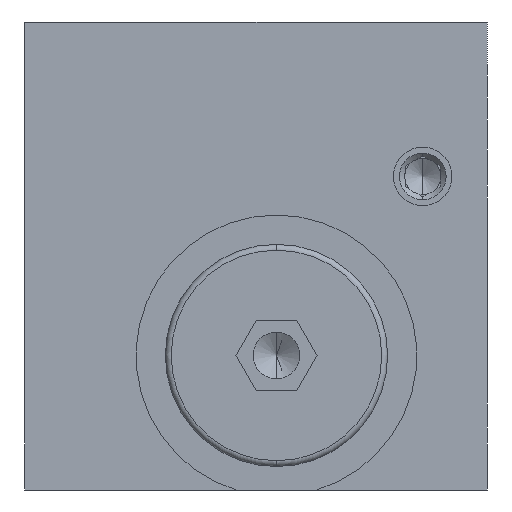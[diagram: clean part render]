
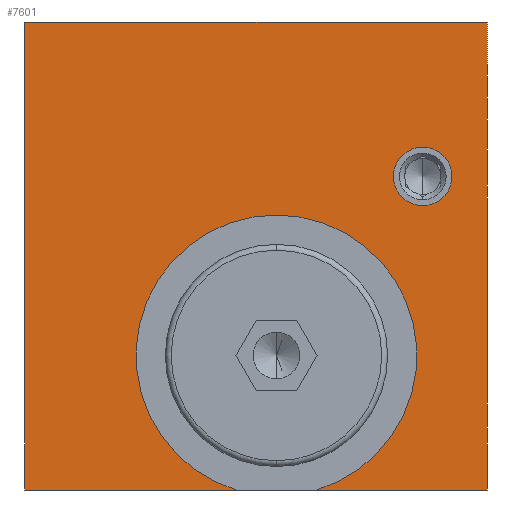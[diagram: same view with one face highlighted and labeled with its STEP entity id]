
A CAD part, left-side view. The second image highlights one B-rep face of the part: STEP entity #7601.
In plain terms, the highlighted planar face has unit normal (-1, 0, 0).
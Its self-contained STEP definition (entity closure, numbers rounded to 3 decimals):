
#148 = LINE ( 'NONE', #2505, #3094 ) ;
#208 = ORIENTED_EDGE ( 'NONE', *, *, #13230, .F. ) ;
#226 = CARTESIAN_POINT ( 'NONE',  ( 0., 1.678, -20. ) ) ;
#396 = ORIENTED_EDGE ( 'NONE', *, *, #10159, .F. ) ;
#542 = DIRECTION ( 'NONE',  ( -1., 0., 0. ) ) ;
#849 = VERTEX_POINT ( 'NONE', #1285 ) ;
#1187 = CARTESIAN_POINT ( 'NONE',  ( 0., 19.75, -20. ) ) ;
#1285 = CARTESIAN_POINT ( 'NONE',  ( 0., -5.178, -20. ) ) ;
#1432 = CARTESIAN_POINT ( 'NONE',  ( 0., -19.75, 20. ) ) ;
#2141 = LINE ( 'NONE', #5838, #13488 ) ;
#2248 = AXIS2_PLACEMENT_3D ( 'NONE', #13101, #6525, #14189 ) ;
#2297 = DIRECTION ( 'NONE',  ( 0., 0., 1. ) ) ;
#2305 = ORIENTED_EDGE ( 'NONE', *, *, #7713, .F. ) ;
#2395 = DIRECTION ( 'NONE',  ( -1., 0., 0. ) ) ;
#2415 = EDGE_LOOP ( 'NONE', ( #9736, #8286 ) ) ;
#2490 = EDGE_CURVE ( 'NONE', #9012, #9950, #2863, .T. ) ;
#2505 = CARTESIAN_POINT ( 'NONE',  ( 0., -19.75, -20. ) ) ;
#2556 = DIRECTION ( 'NONE',  ( 0., -1., 0. ) ) ;
#2731 = CARTESIAN_POINT ( 'NONE',  ( 0., -14.25, 9.3 ) ) ;
#2863 = LINE ( 'NONE', #5517, #5805 ) ;
#2934 = AXIS2_PLACEMENT_3D ( 'NONE', #8981, #2395, #10093 ) ;
#3094 = VECTOR ( 'NONE', #11314, 1000. ) ;
#3143 = EDGE_CURVE ( 'NONE', #4811, #849, #4345, .T. ) ;
#3195 = DIRECTION ( 'NONE',  ( 0., 0., 1. ) ) ;
#3655 = VECTOR ( 'NONE', #6871, 1000. ) ;
#3879 = VERTEX_POINT ( 'NONE', #2731 ) ;
#4345 = LINE ( 'NONE', #9686, #7271 ) ;
#4591 = ORIENTED_EDGE ( 'NONE', *, *, #14235, .F. ) ;
#4811 = VERTEX_POINT ( 'NONE', #9551 ) ;
#4998 = DIRECTION ( 'NONE',  ( -1., 0., 0. ) ) ;
#5486 = EDGE_CURVE ( 'NONE', #13301, #3879, #13540, .T. ) ;
#5517 = CARTESIAN_POINT ( 'NONE',  ( 0., 19.75, 20. ) ) ;
#5561 = VERTEX_POINT ( 'NONE', #1432 ) ;
#5805 = VECTOR ( 'NONE', #3195, 1000. ) ;
#5838 = CARTESIAN_POINT ( 'NONE',  ( 0., -19.75, 20. ) ) ;
#6289 = EDGE_CURVE ( 'NONE', #849, #7706, #13290, .T. ) ;
#6426 = FACE_BOUND ( 'NONE', #2415, .T. ) ;
#6499 = VERTEX_POINT ( 'NONE', #226 ) ;
#6525 = DIRECTION ( 'NONE',  ( -1., 0., 0. ) ) ;
#6587 = LINE ( 'NONE', #11244, #3655 ) ;
#6871 = DIRECTION ( 'NONE',  ( 0., 0., -1. ) ) ;
#7127 = CARTESIAN_POINT ( 'NONE',  ( 0., -14.25, 6.8 ) ) ;
#7271 = VECTOR ( 'NONE', #9636, 1000. ) ;
#7514 = AXIS2_PLACEMENT_3D ( 'NONE', #7127, #542, #8260 ) ;
#7601 = ADVANCED_FACE ( 'NONE', ( #6426, #9358 ), #11062, .T. ) ;
#7706 = VERTEX_POINT ( 'NONE', #13401 ) ;
#7713 = EDGE_CURVE ( 'NONE', #5561, #4811, #6587, .T. ) ;
#7941 = EDGE_CURVE ( 'NONE', #3879, #13301, #12770, .T. ) ;
#8155 = CARTESIAN_POINT ( 'NONE',  ( 0., -14.25, 4.3 ) ) ;
#8251 = ORIENTED_EDGE ( 'NONE', *, *, #2490, .F. ) ;
#8260 = DIRECTION ( 'NONE',  ( 0., 0., 1. ) ) ;
#8286 = ORIENTED_EDGE ( 'NONE', *, *, #5486, .F. ) ;
#8887 = DIRECTION ( 'NONE',  ( -1., 0., 0. ) ) ;
#8981 = CARTESIAN_POINT ( 'NONE',  ( 0., -14.25, 6.8 ) ) ;
#9012 = VERTEX_POINT ( 'NONE', #11464 ) ;
#9358 = FACE_OUTER_BOUND ( 'NONE', #14176, .T. ) ;
#9551 = CARTESIAN_POINT ( 'NONE',  ( 0., -19.75, -20. ) ) ;
#9636 = DIRECTION ( 'NONE',  ( 0., 1., 0. ) ) ;
#9686 = CARTESIAN_POINT ( 'NONE',  ( 0., -19.75, -20. ) ) ;
#9736 = ORIENTED_EDGE ( 'NONE', *, *, #7941, .F. ) ;
#9950 = VERTEX_POINT ( 'NONE', #12159 ) ;
#10093 = DIRECTION ( 'NONE',  ( 0., 0., 1. ) ) ;
#10159 = EDGE_CURVE ( 'NONE', #7706, #6499, #13224, .T. ) ;
#11062 = PLANE ( 'NONE',  #11765 ) ;
#11244 = CARTESIAN_POINT ( 'NONE',  ( 0., -19.75, 20. ) ) ;
#11314 = DIRECTION ( 'NONE',  ( 0., 1., 0. ) ) ;
#11464 = CARTESIAN_POINT ( 'NONE',  ( 0., 19.75, -20. ) ) ;
#11573 = CARTESIAN_POINT ( 'NONE',  ( 0., -1.75, -8.5 ) ) ;
#11765 = AXIS2_PLACEMENT_3D ( 'NONE', #1187, #8887, #2297 ) ;
#12159 = CARTESIAN_POINT ( 'NONE',  ( 0., 19.75, 20. ) ) ;
#12677 = DIRECTION ( 'NONE',  ( 0., 0., 1. ) ) ;
#12770 = CIRCLE ( 'NONE', #7514, 2.5 ) ;
#12927 = ORIENTED_EDGE ( 'NONE', *, *, #6289, .F. ) ;
#13101 = CARTESIAN_POINT ( 'NONE',  ( 0., -1.75, -8.5 ) ) ;
#13224 = CIRCLE ( 'NONE', #14108, 12. ) ;
#13230 = EDGE_CURVE ( 'NONE', #9950, #5561, #2141, .T. ) ;
#13290 = CIRCLE ( 'NONE', #2248, 12. ) ;
#13301 = VERTEX_POINT ( 'NONE', #8155 ) ;
#13401 = CARTESIAN_POINT ( 'NONE',  ( 0., -1.75, 3.5 ) ) ;
#13488 = VECTOR ( 'NONE', #2556, 1000. ) ;
#13540 = CIRCLE ( 'NONE', #2934, 2.5 ) ;
#13664 = ORIENTED_EDGE ( 'NONE', *, *, #3143, .F. ) ;
#14108 = AXIS2_PLACEMENT_3D ( 'NONE', #11573, #4998, #12677 ) ;
#14176 = EDGE_LOOP ( 'NONE', ( #12927, #13664, #2305, #208, #8251, #4591, #396 ) ) ;
#14189 = DIRECTION ( 'NONE',  ( 0., 0., 1. ) ) ;
#14235 = EDGE_CURVE ( 'NONE', #6499, #9012, #148, .T. ) ;
